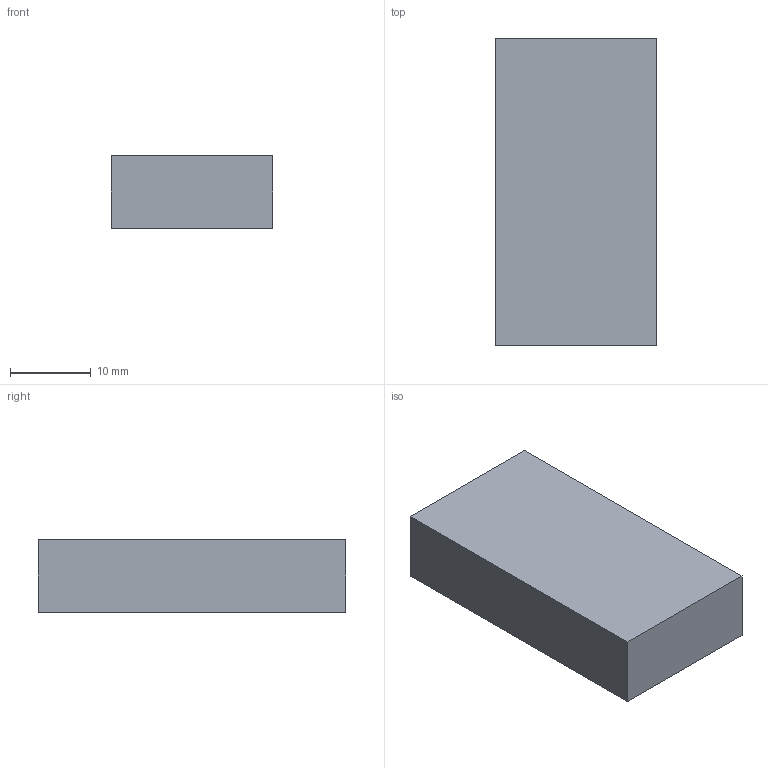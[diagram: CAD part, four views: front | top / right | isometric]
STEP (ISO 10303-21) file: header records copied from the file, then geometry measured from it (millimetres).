
FILE_DESCRIPTION(('Open CASCADE Model'),'2;1');
FILE_NAME('Open CASCADE Shape Model','2026-10-04T01:02:31',('Author'),( 'Open CASCADE'),'Open CASCADE STEP processor 8.0','Open CASCADE 8.0' ,'Unknown');
FILE_SCHEMA(('AUTOMOTIVE_DESIGN { 1 0 10303 214 1 1 1 1 }'));
Length unit declared in the file: millimetre
Products named in the file (1): Open CASCADE STEP translator 8.0 273
Bounding box: 20 x 38 x 9 mm (x, y, z)
Volume: 6840 mm3; surface area: 2564 mm2
Topology: 1 solids, 1 shells, 6 faces, 12 edges, 8 vertices
Faces by surface type: plane 6
Entity records: 322 total; most frequent: CARTESIAN_POINT 51, DIRECTION 50, LINE 36, VECTOR 36, ORIENTED_EDGE 24, PCURVE 24, DEFINITIONAL_REPRESENTATION 24, EDGE_CURVE 12
